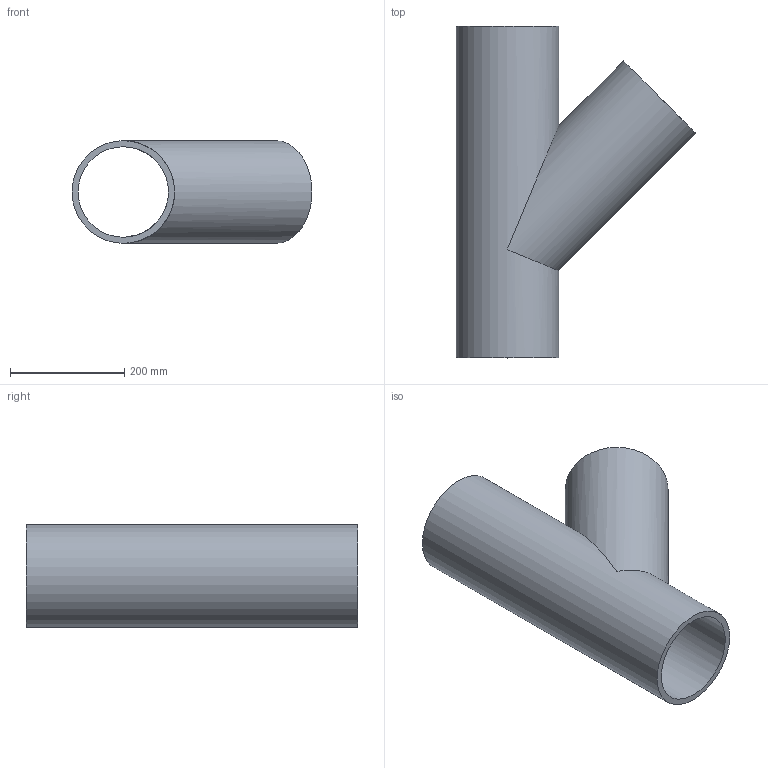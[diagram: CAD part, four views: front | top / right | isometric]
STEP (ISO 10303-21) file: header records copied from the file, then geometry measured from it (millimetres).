
FILE_DESCRIPTION(('Beschreibung'),'1');
FILE_NAME('V:/Ziel/25.25.01.063_SDR_17_PE100_180.STP', '2014-09-15T05:54:17',('Author'), ('Organization'), 'KCM Version 1.1.794.0', 'Kubotek KeyCreator', 'Authorization');
FILE_SCHEMA(('CONFIG_CONTROL_DESIGN'));
Length unit declared in the file: millimetre
Bounding box: 420.93 x 582 x 180 mm (x, y, z)
Volume: 4594622.9 mm3; surface area: 875483.9 mm2
Topology: 1 solids, 1 shells, 7 faces, 28 edges, 24 vertices
Faces by surface type: cylinder 4, plane 3
Full cylindrical faces by diameter (mm): 158.6 x2, 180 x2
Entity records: 867 total; most frequent: CARTESIAN_POINT 550, DIRECTION 48, ORIENTED_EDGE 48, EDGE_CURVE 24, AXIS2_PLACEMENT_3D 22, VERTEX_POINT 20, EDGE_LOOP 12, CIRCLE 10
